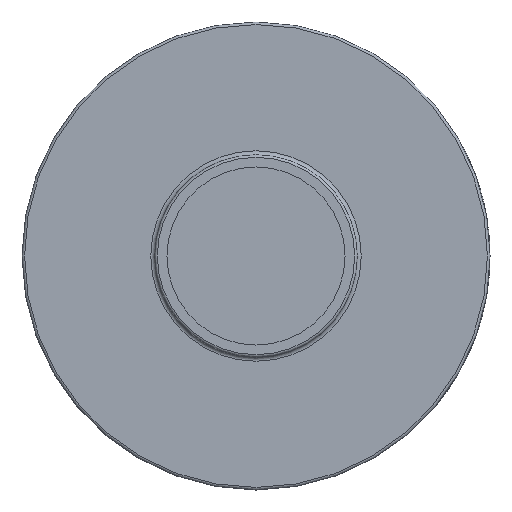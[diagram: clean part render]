
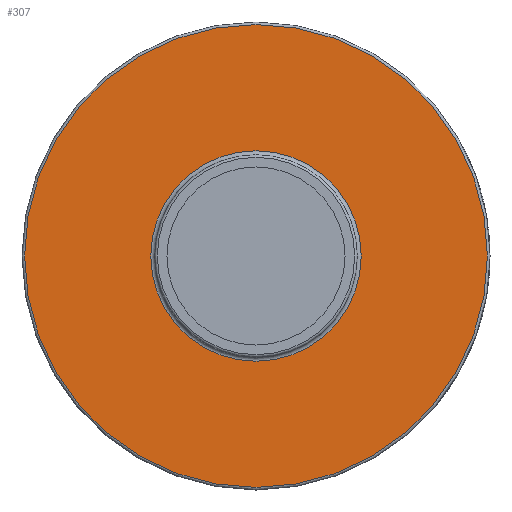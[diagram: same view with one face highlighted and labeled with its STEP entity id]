
A CAD part, left-side view. The second image highlights one B-rep face of the part: STEP entity #307.
In plain terms, the highlighted planar face has unit normal (-1, 0, 0).
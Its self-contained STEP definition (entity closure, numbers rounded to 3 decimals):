
#307 = ADVANCED_FACE( '', ( #809, #810 ), #811, .T. );
#809 = FACE_BOUND( '', #1805, .T. );
#810 = FACE_OUTER_BOUND( '', #1806, .T. );
#811 = PLANE( '', #1807 );
#1805 = EDGE_LOOP( '', ( #3612 ) );
#1806 = EDGE_LOOP( '', ( #3613 ) );
#1807 = AXIS2_PLACEMENT_3D( '', #3614, #3615, #3616 );
#3612 = ORIENTED_EDGE( '', *, *, #5243, .T. );
#3613 = ORIENTED_EDGE( '', *, *, #5244, .T. );
#3614 = CARTESIAN_POINT( '', ( 21.361, 0., 20.003 ) );
#3615 = DIRECTION( '', ( -1., 0., 0. ) );
#3616 = DIRECTION( '', ( 0., 0., 1. ) );
#5243 = EDGE_CURVE( '', #6197, #6197, #6198, .F. );
#5244 = EDGE_CURVE( '', #6199, #6199, #6200, .T. );
#6197 = VERTEX_POINT( '', #8062 );
#6198 = CIRCLE( '', #8063, 20.79 );
#6199 = VERTEX_POINT( '', #8064 );
#6200 = CIRCLE( '', #8065, 45.72 );
#8062 = CARTESIAN_POINT( '', ( 21.361, 0., 20.79 ) );
#8063 = AXIS2_PLACEMENT_3D( '', #9400, #9401, #9402 );
#8064 = CARTESIAN_POINT( '', ( 21.361, 0., 45.72 ) );
#8065 = AXIS2_PLACEMENT_3D( '', #9403, #9404, #9405 );
#9400 = CARTESIAN_POINT( '', ( 21.361, 0., 0. ) );
#9401 = DIRECTION( '', ( -1., 0., 0. ) );
#9402 = DIRECTION( '', ( 0., 0., 1. ) );
#9403 = CARTESIAN_POINT( '', ( 21.361, 0., 0. ) );
#9404 = DIRECTION( '', ( -1., 0., 0. ) );
#9405 = DIRECTION( '', ( 0., 0., 1. ) );
